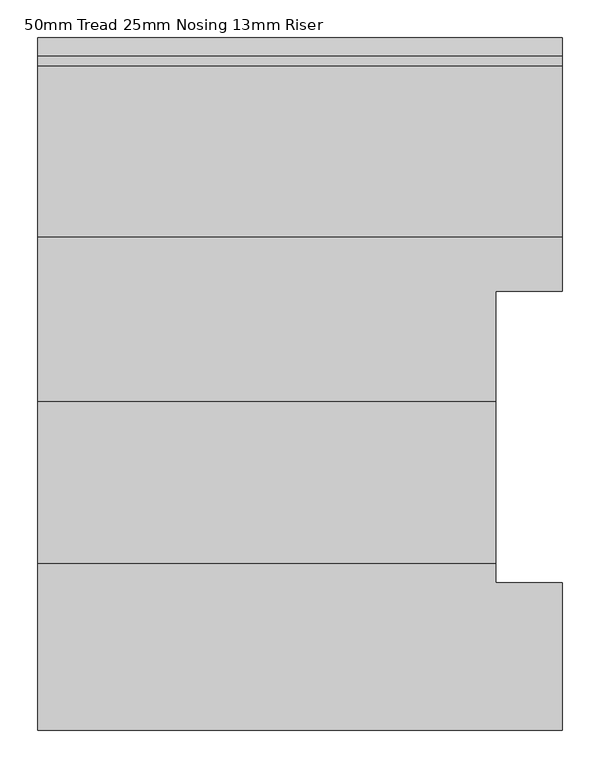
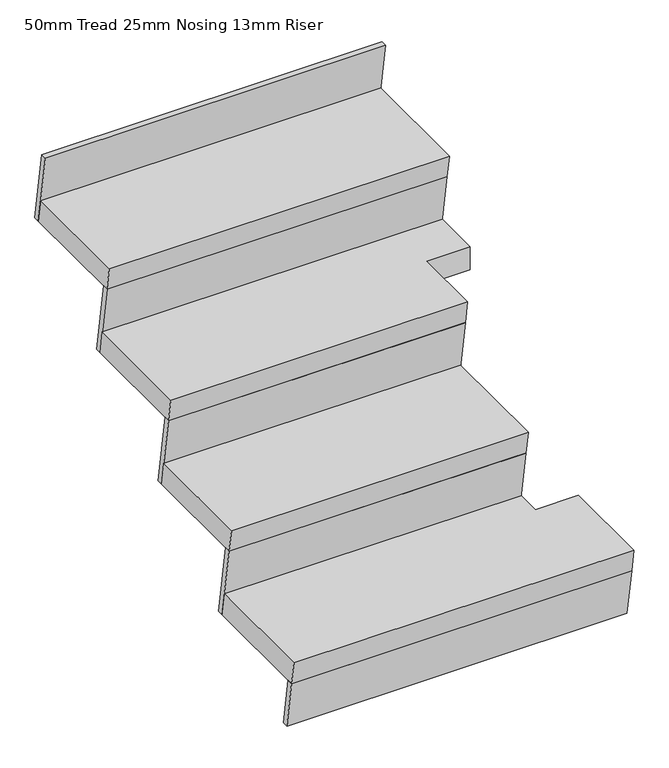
"""IFC4 building model written with IfcOpenShell, lengths in millimetres: stair flight geometry, 50mm Tread 25mm Nosing 13mm Riser."""

from ifc_helpers import new_model, si_unit, origin, place, context, project, spatial, faceted_brep, source, transform, mapped, element, save


def stair_flight_50mm_tread_25mm_nosing_13mm_riser_50f6e7d9(model_context):
    return source(origin(), model_context, "Body", "Brep", [
        faceted_brep([(-6203.95, 8553.05, -2590.8), (-6203.95, 8561.2520997, -2640.8), (-6813.55, 8561.2520997, -2640.8), (-6813.55, 8553.05, -2590.8), (-6813.55, 8305.8, -2590.8), (-6115.05, 8305.8, -2590.8), (-6115.05, 8502.65, -2590.8), (-6203.95, 8502.65, -2590.8), (-6203.95, 8502.65, -2640.8), (-6115.05, 8502.65, -2640.8), (-6115.05, 8314.0020997, -2640.8), (-6813.55, 8314.0020997, -2640.8)], [[[0, 1, 2, 3]], [[3, 4, 5, 6, 7, 0]], [[8, 9, 10, 11, 2, 1]], [[4, 3, 2, 11]], [[6, 5, 10, 9]], [[5, 4, 11, 10]], [[7, 6, 9, 8]], [[0, 7, 8, 1]]]),
        faceted_brep([(-6115.05, 8314.0020997, -2640.8), (-6115.05, 8330.8, -2743.2), (-6115.05, 8343.4670696, -2743.2), (-6115.05, 8326.6691693, -2640.8), (-6813.55, 8314.0020997, -2640.8), (-6813.55, 8326.6691693, -2640.8), (-6813.55, 8343.4670696, -2743.2), (-6813.55, 8330.8, -2743.2)], [[[0, 1, 2, 3]], [[4, 5, 6, 7]], [[1, 0, 4, 7]], [[2, 1, 7, 6]], [[3, 2, 6, 5]], [[0, 3, 5, 4]]]),
        faceted_brep([(-6203.95, 8536.2520997, -2488.4), (-6203.95, 8561.2520997, -2640.8), (-6203.95, 8573.9191693, -2640.8), (-6203.95, 8548.9191693, -2488.4), (-6813.55, 8536.2520997, -2488.4), (-6813.55, 8548.9191693, -2488.4), (-6813.55, 8573.9191693, -2640.8), (-6813.55, 8561.2520997, -2640.8)], [[[0, 1, 2, 3]], [[4, 5, 6, 7]], [[1, 0, 4, 7]], [[2, 1, 7, 6]], [[3, 2, 6, 5]], [[0, 3, 5, 4]]]),
        faceted_brep([(-6813.55, 8768.95, -2438.4), (-6813.55, 8528.05, -2438.4), (-6203.95, 8528.05, -2438.4), (-6203.95, 8768.95, -2438.4), (-6813.55, 8777.1520997, -2488.4), (-6203.95, 8777.1520997, -2488.4), (-6203.95, 8536.2520997, -2488.4), (-6813.55, 8536.2520997, -2488.4)], [[[0, 1, 2, 3]], [[4, 5, 6, 7]], [[1, 0, 4, 7]], [[3, 2, 6, 5]], [[3, 5, 4, 0]], [[2, 1, 7, 6]]]),
        faceted_brep([(-6203.95, 8752.1520997, -2336.0), (-6203.95, 8777.1520997, -2488.4), (-6203.95, 8789.8191693, -2488.4), (-6203.95, 8764.8191693, -2336.0), (-6813.55, 8752.1520997, -2336.0), (-6813.55, 8764.8191693, -2336.0), (-6813.55, 8789.8191693, -2488.4), (-6813.55, 8777.1520997, -2488.4)], [[[0, 1, 2, 3]], [[4, 5, 6, 7]], [[1, 0, 4, 7]], [[2, 1, 7, 6]], [[3, 2, 6, 5]], [[0, 3, 5, 4]]]),
        faceted_brep([(-6813.55, 8988.025, -2286.0), (-6813.55, 8743.95, -2286.0), (-6203.95, 8743.95, -2286.0), (-6203.95, 8890.0, -2286.0), (-6115.05, 8890.0, -2286.0), (-6115.05, 8988.025, -2286.0), (-6115.05, 8890.0, -2336.0), (-6203.95, 8890.0, -2336.0), (-6203.95, 8752.1520997, -2336.0), (-6813.55, 8752.1520997, -2336.0), (-6813.55, 8996.2270997, -2336.0), (-6115.05, 8996.2270997, -2336.0)], [[[0, 1, 2, 3, 4, 5]], [[6, 7, 8, 9, 10, 11]], [[1, 0, 10, 9]], [[3, 2, 8, 7]], [[5, 11, 10, 0]], [[2, 1, 9, 8]], [[4, 3, 7, 6]], [[5, 4, 6, 11]]]),
        faceted_brep([(-6115.05, 8971.2270997, -2183.6), (-6115.05, 8996.2270997, -2336.0), (-6115.05, 9008.8941693, -2336.0), (-6115.05, 8983.8941693, -2183.6), (-6813.55, 8971.2270997, -2183.6), (-6813.55, 8983.8941693, -2183.6), (-6813.55, 9008.8941693, -2336.0), (-6813.55, 8996.2270997, -2336.0)], [[[0, 1, 2, 3]], [[4, 5, 6, 7]], [[1, 0, 4, 7]], [[2, 1, 7, 6]], [[3, 2, 6, 5]], [[0, 3, 5, 4]]]),
        faceted_brep([(-6115.05, 9190.3020997, -2031.2), (-6115.05, 9215.3020997, -2183.6), (-6115.05, 9227.9691693, -2183.6), (-6115.05, 9202.9691693, -2031.2), (-6813.55, 9190.3020997, -2031.2), (-6813.55, 9202.9691693, -2031.2), (-6813.55, 9227.9691693, -2183.6), (-6813.55, 9215.3020997, -2183.6)], [[[0, 1, 2, 3]], [[4, 5, 6, 7]], [[1, 0, 4, 7]], [[2, 1, 7, 6]], [[3, 2, 6, 5]], [[0, 3, 5, 4]]]),
        faceted_brep([(-6813.55, 9207.1, -2133.6), (-6813.55, 8963.025, -2133.6), (-6115.05, 8963.025, -2133.6), (-6115.05, 9207.1, -2133.6), (-6813.55, 9215.3020997, -2183.6), (-6115.05, 9215.3020997, -2183.6), (-6115.05, 8971.2270997, -2183.6), (-6813.55, 8971.2270997, -2183.6)], [[[0, 1, 2, 3]], [[4, 5, 6, 7]], [[1, 0, 4, 7]], [[3, 2, 6, 5]], [[3, 5, 4, 0]], [[2, 1, 7, 6]]]),
    ])


if __name__ == "__main__":
    model = new_model("IFC4")
    model_context = context("Model", 3, world=origin())
    ifc_project = project(units=[si_unit("LENGTHUNIT", "METRE", prefix="MILLI")], contexts=[model_context])
    site = spatial("IfcSite", under=ifc_project)
    building = spatial("IfcBuilding", under=site)
    placement = place(None, origin())
    stair_flight_50mm_tread_25mm_nosing_13mm_riser_shape = stair_flight_50mm_tread_25mm_nosing_13mm_riser_50f6e7d9(model_context)
    element("IfcStairFlight", 1, ObjectType="50mm Tread 25mm Nosing 13mm Riser", at=placement, inside=building, context=model_context, shape_type="MappedRepresentation", body=[
        mapped(stair_flight_50mm_tread_25mm_nosing_13mm_riser_shape, transform((0.0, 0.0, 0.0), x_axis=(1.0, 0.0, 0.0), y_axis=(0.0, 1.0, 0.0), z_axis=(0.0, 0.0, 1.0))),
    ])
    save(model, "model.ifc")
